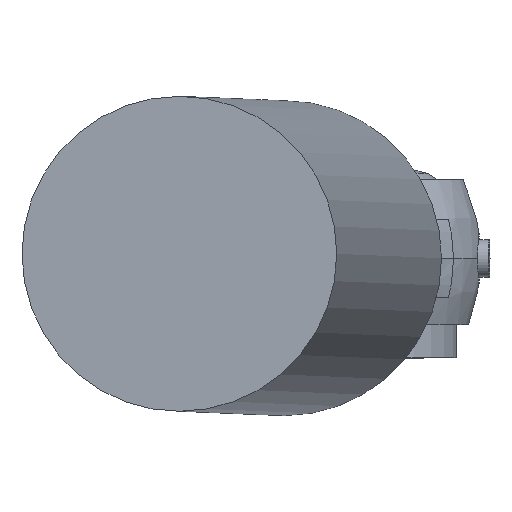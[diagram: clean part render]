
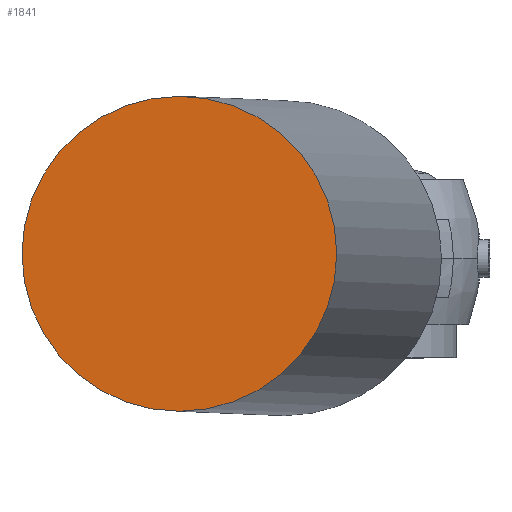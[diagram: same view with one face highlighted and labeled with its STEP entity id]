
A CAD part, top view. The second image highlights one B-rep face of the part: STEP entity #1841.
In plain terms, the highlighted planar face has unit normal (-0.042, 0, 0.999).
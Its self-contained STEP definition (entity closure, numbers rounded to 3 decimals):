
#285 = EDGE_CURVE ( 'NONE', #1447, #2766, #769, .T. ) ;
#373 = ORIENTED_EDGE ( 'NONE', *, *, #285, .T. ) ;
#548 = EDGE_LOOP ( 'NONE', ( #2969, #373 ) ) ;
#580 = DIRECTION ( 'NONE',  ( 0., 1., 0. ) ) ;
#594 = FACE_OUTER_BOUND ( 'NONE', #548, .T. ) ;
#741 = EDGE_CURVE ( 'NONE', #2766, #1447, #1369, .T. ) ;
#744 = CARTESIAN_POINT ( 'NONE',  ( 325.267, 289.5, 2099.118 ) ) ;
#745 = DIRECTION ( 'NONE',  ( 0., 1., 0. ) ) ;
#769 = CIRCLE ( 'NONE', #815, 50. ) ;
#815 = AXIS2_PLACEMENT_3D ( 'NONE', #1762, #2704, #2264 ) ;
#1369 = CIRCLE ( 'NONE', #2452, 50. ) ;
#1447 = VERTEX_POINT ( 'NONE', #1708 ) ;
#1591 = CARTESIAN_POINT ( 'NONE',  ( 325.267, 339.5, 2099.118 ) ) ;
#1708 = CARTESIAN_POINT ( 'NONE',  ( 325.267, 389.5, 2099.118 ) ) ;
#1762 = CARTESIAN_POINT ( 'NONE',  ( 325.267, 339.5, 2099.118 ) ) ;
#1841 = ADVANCED_FACE ( 'NONE', ( #594 ), #2991, .T. ) ;
#2065 = DIRECTION ( 'NONE',  ( -0.042, 0., 0.999 ) ) ;
#2263 = DIRECTION ( 'NONE',  ( -0.042, 0., 0.999 ) ) ;
#2264 = DIRECTION ( 'NONE',  ( 0., 1., 0. ) ) ;
#2452 = AXIS2_PLACEMENT_3D ( 'NONE', #2813, #2065, #745 ) ;
#2560 = AXIS2_PLACEMENT_3D ( 'NONE', #1591, #2263, #580 ) ;
#2704 = DIRECTION ( 'NONE',  ( -0.042, 0., 0.999 ) ) ;
#2766 = VERTEX_POINT ( 'NONE', #744 ) ;
#2813 = CARTESIAN_POINT ( 'NONE',  ( 325.267, 339.5, 2099.118 ) ) ;
#2969 = ORIENTED_EDGE ( 'NONE', *, *, #741, .T. ) ;
#2991 = PLANE ( 'NONE',  #2560 ) ;
